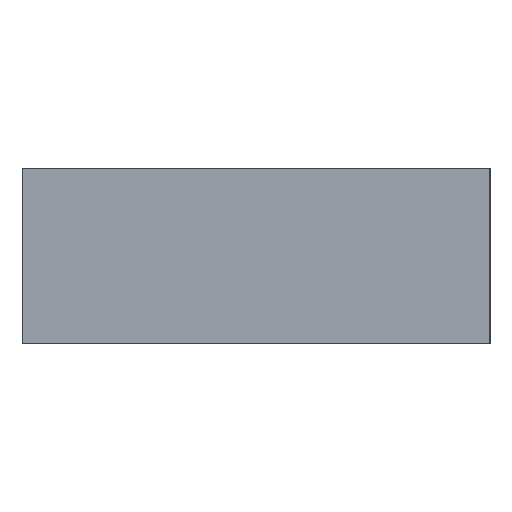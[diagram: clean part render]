
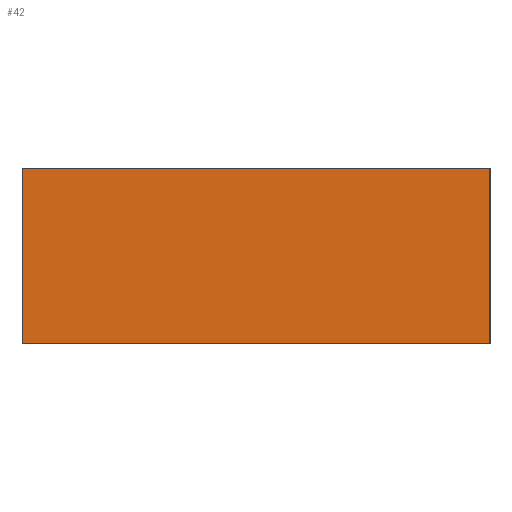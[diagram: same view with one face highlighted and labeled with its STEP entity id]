
A CAD part, left-side view. The second image highlights one B-rep face of the part: STEP entity #42.
In plain terms, the highlighted planar face has unit normal (-1, 0, 0).
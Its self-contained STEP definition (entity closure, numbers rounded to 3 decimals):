
#42 = ADVANCED_FACE( '', ( #90 ), #91, .F. );
#90 = FACE_OUTER_BOUND( '', #143, .T. );
#91 = PLANE( '', #144 );
#143 = EDGE_LOOP( '', ( #200, #201, #202, #203 ) );
#144 = AXIS2_PLACEMENT_3D( '', #204, #205, #206 );
#200 = ORIENTED_EDGE( '', *, *, #306, .T. );
#201 = ORIENTED_EDGE( '', *, *, #307, .F. );
#202 = ORIENTED_EDGE( '', *, *, #308, .F. );
#203 = ORIENTED_EDGE( '', *, *, #309, .T. );
#204 = CARTESIAN_POINT( '', ( -6., 0., 6. ) );
#205 = DIRECTION( '', ( 1., 0., 0. ) );
#206 = DIRECTION( '', ( 0., 0., -1. ) );
#306 = EDGE_CURVE( '', #357, #358, #359, .T. );
#307 = EDGE_CURVE( '', #360, #358, #361, .T. );
#308 = EDGE_CURVE( '', #362, #360, #363, .T. );
#309 = EDGE_CURVE( '', #362, #357, #364, .T. );
#357 = VERTEX_POINT( '', #427 );
#358 = VERTEX_POINT( '', #428 );
#359 = LINE( '', #429, #430 );
#360 = VERTEX_POINT( '', #431 );
#361 = LINE( '', #432, #433 );
#362 = VERTEX_POINT( '', #434 );
#363 = LINE( '', #435, #436 );
#364 = LINE( '', #437, #438 );
#427 = CARTESIAN_POINT( '', ( -6., 0., -6. ) );
#428 = CARTESIAN_POINT( '', ( -6., -32., -6. ) );
#429 = CARTESIAN_POINT( '', ( -6., 0., -6. ) );
#430 = VECTOR( '', #495, 1000. );
#431 = CARTESIAN_POINT( '', ( -6., -32., 6. ) );
#432 = CARTESIAN_POINT( '', ( -6., -32., 6. ) );
#433 = VECTOR( '', #496, 1000. );
#434 = CARTESIAN_POINT( '', ( -6., 0., 6. ) );
#435 = CARTESIAN_POINT( '', ( -6., 0., 6. ) );
#436 = VECTOR( '', #497, 1000. );
#437 = CARTESIAN_POINT( '', ( -6., 0., 6. ) );
#438 = VECTOR( '', #498, 1000. );
#495 = DIRECTION( '', ( 0., -1., 0. ) );
#496 = DIRECTION( '', ( 0., 0., -1. ) );
#497 = DIRECTION( '', ( 0., -1., 0. ) );
#498 = DIRECTION( '', ( 0., 0., -1. ) );
